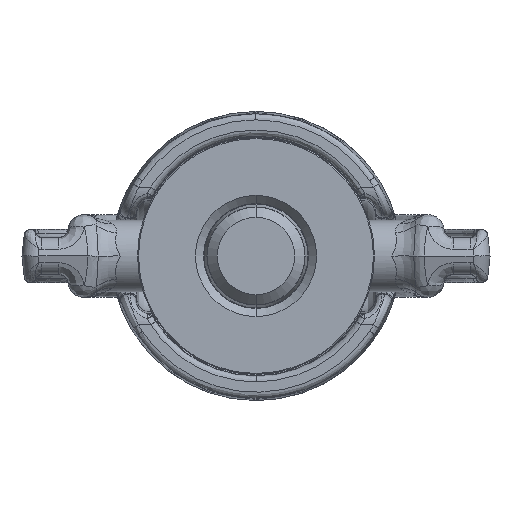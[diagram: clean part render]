
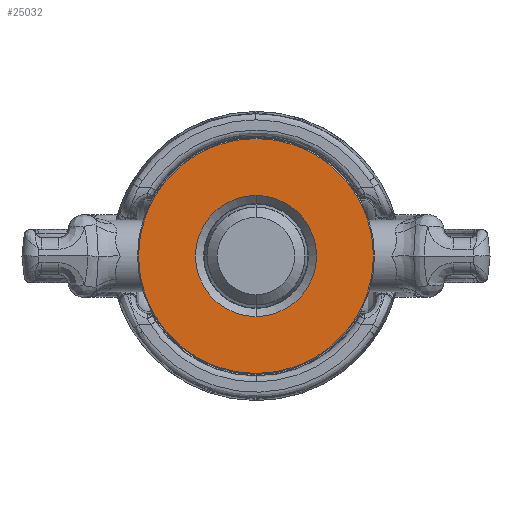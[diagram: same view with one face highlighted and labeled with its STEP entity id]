
A CAD part, front view. The second image highlights one B-rep face of the part: STEP entity #25032.
In plain terms, the highlighted planar face has unit normal (0, -1, 0).
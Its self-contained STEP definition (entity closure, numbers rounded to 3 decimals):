
#4719 = CARTESIAN_POINT ( 'NONE',  ( 0., 0., 29.65 ) ) ;
#4865 = DIRECTION ( 'NONE',  ( 0., 0., -1. ) ) ;
#4866 = DIRECTION ( 'NONE',  ( 0., -1., 0. ) ) ;
#4867 = CARTESIAN_POINT ( 'NONE',  ( 0., 0., 0. ) ) ;
#4868 = AXIS2_PLACEMENT_3D ( 'NONE', #4867, #4866, #4865 ) ;
#4869 = CIRCLE ( 'NONE', #4868, 29.65 ) ;
#6444 = VERTEX_POINT ( 'NONE', #20260 ) ;
#15532 = EDGE_CURVE ( 'NONE', #25810, #25801, #23942, .T. ) ;
#20260 = CARTESIAN_POINT ( 'NONE',  ( 0., 0., -29.65 ) ) ;
#23935 = DIRECTION ( 'NONE',  ( 0., 0., 1. ) ) ;
#23936 = DIRECTION ( 'NONE',  ( 0., 1., 0. ) ) ;
#23937 = CARTESIAN_POINT ( 'NONE',  ( 0., 0., 0. ) ) ;
#23938 = AXIS2_PLACEMENT_3D ( 'NONE', #23937, #23936, #23935 ) ;
#23942 = CIRCLE ( 'NONE', #23938, 57.5 ) ;
#25021 = EDGE_CURVE ( 'NONE', #6444, #35359, #30494, .T. ) ;
#25032 = ADVANCED_FACE ( 'NONE', ( #30549, #30552 ), #30539, .F. ) ;
#25801 = VERTEX_POINT ( 'NONE', #32932 ) ;
#25810 = VERTEX_POINT ( 'NONE', #32916 ) ;
#25814 = EDGE_CURVE ( 'NONE', #25801, #25810, #32972, .T. ) ;
#30490 = DIRECTION ( 'NONE',  ( 0., 0., -1. ) ) ;
#30491 = DIRECTION ( 'NONE',  ( 0., -1., 0. ) ) ;
#30492 = CARTESIAN_POINT ( 'NONE',  ( 0., 0., 0. ) ) ;
#30493 = AXIS2_PLACEMENT_3D ( 'NONE', #30492, #30491, #30490 ) ;
#30494 = CIRCLE ( 'NONE', #30493, 29.65 ) ;
#30535 = DIRECTION ( 'NONE',  ( 0., 0., 1. ) ) ;
#30536 = DIRECTION ( 'NONE',  ( 0., 1., 0. ) ) ;
#30537 = CARTESIAN_POINT ( 'NONE',  ( 0., 0., 0. ) ) ;
#30538 = AXIS2_PLACEMENT_3D ( 'NONE', #30537, #30536, #30535 ) ;
#30539 = PLANE ( 'NONE',  #30538 ) ;
#30549 = FACE_BOUND ( 'NONE', #35369, .T. ) ;
#30552 = FACE_OUTER_BOUND ( 'NONE', #35381, .T. ) ;
#32916 = CARTESIAN_POINT ( 'NONE',  ( 0., 0., -57.5 ) ) ;
#32932 = CARTESIAN_POINT ( 'NONE',  ( 0., 0., 57.5 ) ) ;
#32968 = DIRECTION ( 'NONE',  ( 0., 0., 1. ) ) ;
#32969 = DIRECTION ( 'NONE',  ( 0., 1., 0. ) ) ;
#32970 = CARTESIAN_POINT ( 'NONE',  ( 0., 0., 0. ) ) ;
#32971 = AXIS2_PLACEMENT_3D ( 'NONE', #32970, #32969, #32968 ) ;
#32972 = CIRCLE ( 'NONE', #32971, 57.5 ) ;
#35359 = VERTEX_POINT ( 'NONE', #4719 ) ;
#35365 = EDGE_CURVE ( 'NONE', #35359, #6444, #4869, .T. ) ;
#35368 = ORIENTED_EDGE ( 'NONE', *, *, #25021, .F. ) ;
#35369 = EDGE_LOOP ( 'NONE', ( #35368, #35384 ) ) ;
#35376 = ORIENTED_EDGE ( 'NONE', *, *, #15532, .F. ) ;
#35381 = EDGE_LOOP ( 'NONE', ( #35387, #35376 ) ) ;
#35384 = ORIENTED_EDGE ( 'NONE', *, *, #35365, .F. ) ;
#35387 = ORIENTED_EDGE ( 'NONE', *, *, #25814, .F. ) ;
